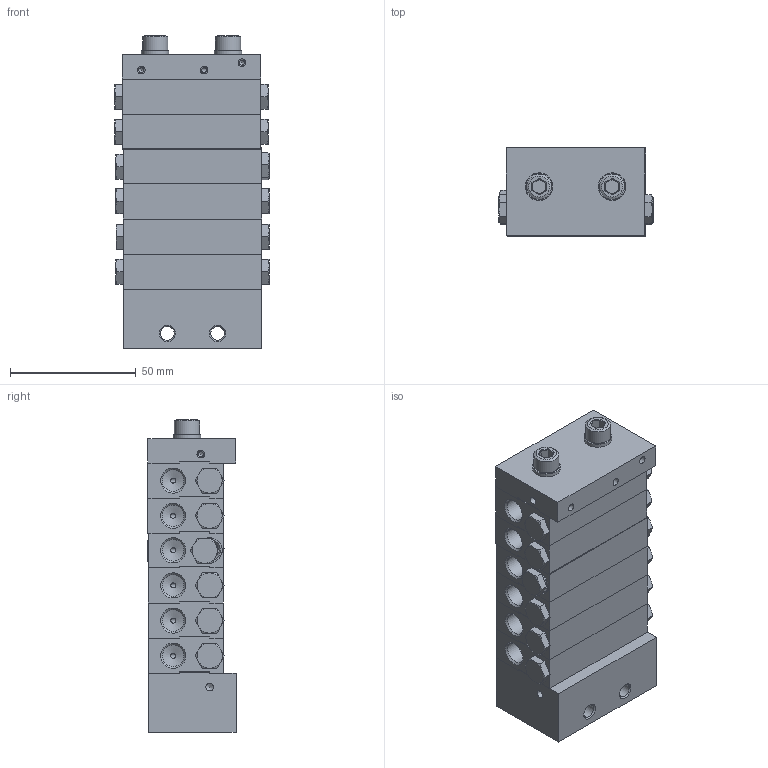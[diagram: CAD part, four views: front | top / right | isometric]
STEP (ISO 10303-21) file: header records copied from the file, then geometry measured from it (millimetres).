
FILE_DESCRIPTION (( 'STEP AP214' ), '1' );
FILE_NAME ('STW_XV_11_Auslässe.STEP', '2025-09-16T13:37:05', ( '' ), ( '' ), 'SwSTEP 2.0', 'SolidWorks 2022', '' );
FILE_SCHEMA (( 'AUTOMOTIVE_DESIGN' ));
Length unit declared in the file: millimetre
Products named in the file (11): O_RING_3X1; STW_XV_ENGANG; STW_XV_MITTEL_1; Verschlussstopfen_1_8; STW_XV_END; STW_XV_Kolbenanschlag; STW_XV_11_Auslässe; M6X65_DIN_912; U_Scheibe_6; STW_XV_Verbindungsstopen
Assembly tree (47 placements, depth 2):
  STW_XV_11_Auslässe
    STW_XV_ENGANG
    O_RING_3X1  x4
    STW_XV_MITTEL_1  x6
    STW_XV_END
    Verschlussstopfen_1_8  x12
    STW_XV_Kolbenanschlag  x12
    STW_XV_Verbindungsstopen  x6
    M6X65_DIN_912  x2
    U_Scheibe_6  x2
    Verschlussstopfen_1_8
Bounding box: 61.32 x 35.03 x 124.48 mm (x, y, z)
Volume: 187076.9 mm3; surface area: 89996.8 mm2
Topology: 47 solids, 47 shells, 1822 faces, 4781 edges, 3054 vertices
Faces by surface type: plane 856, cylinder 491, cone 363, bspline 96, torus 16
Full cylindrical faces by diameter (mm): 2 x161, 3 x7, 5 x65, 5.5 x2, 5.9 x2, 6 x2, 6.2 x14, 6.4 x2, 6.5 x12, 7 x12, 8 x12, 8.4 x6, 8.6 x30, 9 x13, 9.7 x13, 9.73 x6, 10 x14, 11 x2, 15 x1
Entity records: 34703 total; most frequent: CARTESIAN_POINT 15292, ORIENTED_EDGE 2596, DIRECTION 2203, EDGE_CURVE 1298, VERTEX_POINT 919, EDGE_LOOP 845, AXIS2_PLACEMENT_3D 757, VECTOR 689
